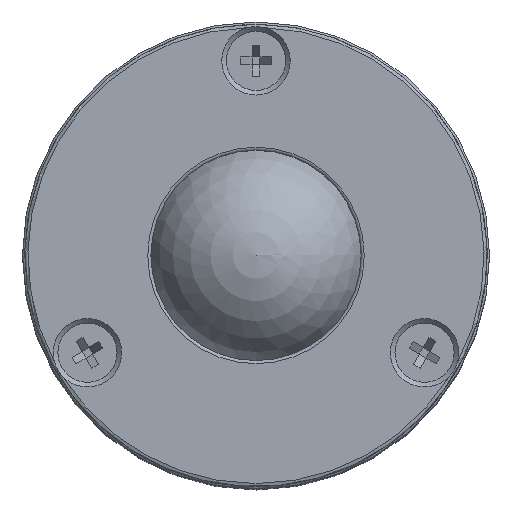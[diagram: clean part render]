
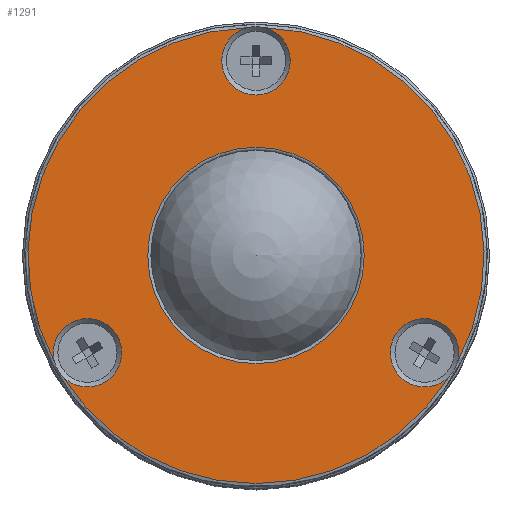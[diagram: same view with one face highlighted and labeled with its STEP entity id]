
A CAD part, top view. The second image highlights one B-rep face of the part: STEP entity #1291.
In plain terms, the highlighted planar face has unit normal (0, 0, 1).
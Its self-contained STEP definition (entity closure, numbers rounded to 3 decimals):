
#311=PLANE('',#1412);
#364=FACE_BOUND('',#553,.T.);
#441=FACE_OUTER_BOUND('',#552,.T.);
#552=EDGE_LOOP('',(#1103,#1104,#1105,#1106,#1107,#1108));
#553=EDGE_LOOP('',(#1109));
#634=CIRCLE('',#1388,2.2);
#637=CIRCLE('',#1407,2.2);
#640=CIRCLE('',#1413,14.65);
#641=CIRCLE('',#1414,2.2);
#642=CIRCLE('',#1415,14.65);
#643=CIRCLE('',#1416,14.65);
#644=CIRCLE('',#1417,6.95);
#708=VERTEX_POINT('',#2014);
#709=VERTEX_POINT('',#2015);
#728=VERTEX_POINT('',#2099);
#729=VERTEX_POINT('',#2100);
#732=VERTEX_POINT('',#2127);
#733=VERTEX_POINT('',#2129);
#734=VERTEX_POINT('',#2133);
#833=EDGE_CURVE('',#709,#708,#634,.T.);
#865=EDGE_CURVE('',#729,#728,#637,.T.);
#868=EDGE_CURVE('',#732,#708,#640,.T.);
#869=EDGE_CURVE('',#732,#733,#641,.T.);
#870=EDGE_CURVE('',#729,#733,#642,.T.);
#871=EDGE_CURVE('',#709,#728,#643,.T.);
#872=EDGE_CURVE('',#734,#734,#644,.T.);
#1103=ORIENTED_EDGE('',*,*,#833,.T.);
#1104=ORIENTED_EDGE('',*,*,#868,.F.);
#1105=ORIENTED_EDGE('',*,*,#869,.T.);
#1106=ORIENTED_EDGE('',*,*,#870,.F.);
#1107=ORIENTED_EDGE('',*,*,#865,.T.);
#1108=ORIENTED_EDGE('',*,*,#871,.F.);
#1109=ORIENTED_EDGE('',*,*,#872,.T.);
#1291=ADVANCED_FACE('',(#441,#364),#311,.T.);
#1388=AXIS2_PLACEMENT_3D('',#2034,#1629,#1630);
#1407=AXIS2_PLACEMENT_3D('',#2119,#1695,#1696);
#1412=AXIS2_PLACEMENT_3D('',#2126,#1705,#1706);
#1413=AXIS2_PLACEMENT_3D('',#2128,#1707,#1708);
#1414=AXIS2_PLACEMENT_3D('',#2130,#1709,#1710);
#1415=AXIS2_PLACEMENT_3D('',#2131,#1711,#1712);
#1416=AXIS2_PLACEMENT_3D('',#2132,#1713,#1714);
#1417=AXIS2_PLACEMENT_3D('',#2134,#1715,#1716);
#1629=DIRECTION('center_axis',(0.,0.,-1.));
#1630=DIRECTION('ref_axis',(0.866,-0.5,0.));
#1695=DIRECTION('center_axis',(0.,0.,-1.));
#1696=DIRECTION('ref_axis',(-0.866,-0.5,0.));
#1705=DIRECTION('center_axis',(0.,0.,1.));
#1706=DIRECTION('ref_axis',(1.,0.,0.));
#1707=DIRECTION('center_axis',(0.,0.,-1.));
#1708=DIRECTION('ref_axis',(0.,1.,0.));
#1709=DIRECTION('center_axis',(0.,0.,-1.));
#1710=DIRECTION('ref_axis',(0.,1.,0.));
#1711=DIRECTION('center_axis',(0.,0.,-1.));
#1712=DIRECTION('ref_axis',(0.,1.,0.));
#1713=DIRECTION('center_axis',(0.,0.,-1.));
#1714=DIRECTION('ref_axis',(0.,1.,0.));
#1715=DIRECTION('center_axis',(0.,0.,-1.));
#1716=DIRECTION('ref_axis',(0.,1.,0.));
#2014=CARTESIAN_POINT('',(12.932,-6.883,37.));
#2015=CARTESIAN_POINT('',(12.427,-7.758,37.));
#2034=CARTESIAN_POINT('Origin',(10.825,-6.25,37.));
#2099=CARTESIAN_POINT('',(-12.427,-7.758,37.));
#2100=CARTESIAN_POINT('',(-12.932,-6.883,37.));
#2119=CARTESIAN_POINT('Origin',(-10.825,-6.25,37.));
#2126=CARTESIAN_POINT('Origin',(0.,10.8,37.));
#2127=CARTESIAN_POINT('',(0.505,14.641,37.));
#2128=CARTESIAN_POINT('Origin',(0.,0.,37.));
#2129=CARTESIAN_POINT('',(-0.505,14.641,37.));
#2130=CARTESIAN_POINT('Origin',(0.,12.5,37.));
#2131=CARTESIAN_POINT('Origin',(0.,0.,37.));
#2132=CARTESIAN_POINT('Origin',(0.,0.,37.));
#2133=CARTESIAN_POINT('',(0.,6.95,37.));
#2134=CARTESIAN_POINT('Origin',(0.,0.,37.));
